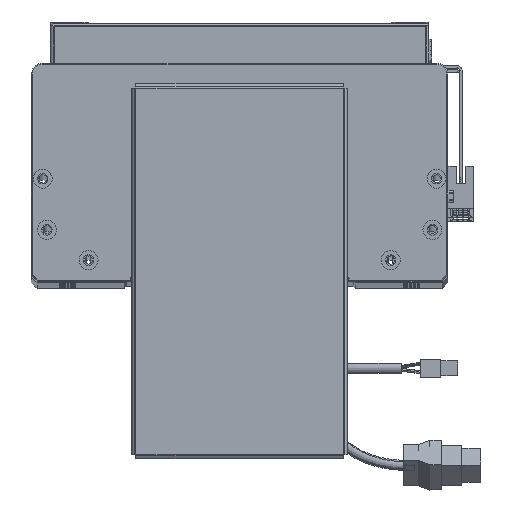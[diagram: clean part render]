
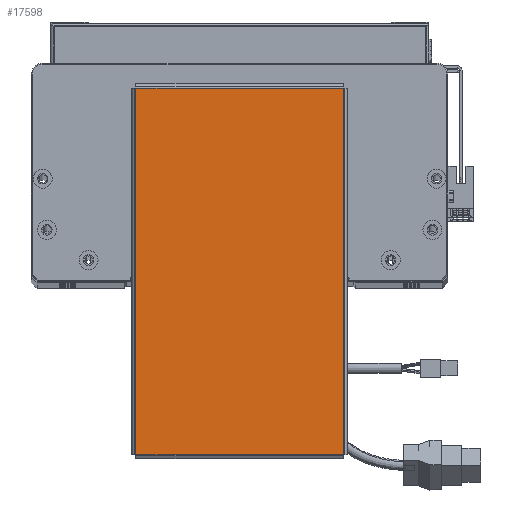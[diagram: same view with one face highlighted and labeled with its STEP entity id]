
A CAD part, top view. The second image highlights one B-rep face of the part: STEP entity #17598.
In plain terms, the highlighted planar face has unit normal (0, 0, 1).
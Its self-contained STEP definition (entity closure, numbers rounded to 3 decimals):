
#1166 = CARTESIAN_POINT ( 'NONE',  ( 96.763, 54.763, 0. ) ) ;
#2144 = CARTESIAN_POINT ( 'NONE',  ( 96.763, -54.793, 0. ) ) ;
#2277 = LINE ( 'NONE', #62775, #57057 ) ;
#4076 = VERTEX_POINT ( 'NONE', #11763 ) ;
#4967 = DIRECTION ( 'NONE',  ( 1., 0., 0. ) ) ;
#7858 = EDGE_CURVE ( 'NONE', #54250, #27908, #59202, .T. ) ;
#9456 = ORIENTED_EDGE ( 'NONE', *, *, #66960, .T. ) ;
#11763 = CARTESIAN_POINT ( 'NONE',  ( -96.763, -54.763, 0. ) ) ;
#12217 = EDGE_CURVE ( 'NONE', #54641, #4076, #2277, .T. ) ;
#13307 = ORIENTED_EDGE ( 'NONE', *, *, #12217, .T. ) ;
#13450 = DIRECTION ( 'NONE',  ( 0., 0., 1. ) ) ;
#17598 = ADVANCED_FACE ( 'NONE', ( #66393 ), #35841, .T. ) ;
#17916 = CARTESIAN_POINT ( 'NONE',  ( -96.763, 54.763, 0. ) ) ;
#18883 = CARTESIAN_POINT ( 'NONE',  ( 96.793, 54.763, 0. ) ) ;
#19862 = ORIENTED_EDGE ( 'NONE', *, *, #7858, .T. ) ;
#20968 = AXIS2_PLACEMENT_3D ( 'NONE', #30168, #13450, #67277 ) ;
#24013 = DIRECTION ( 'NONE',  ( 0., 1., 0. ) ) ;
#25142 = VECTOR ( 'NONE', #4967, 1000. ) ;
#27908 = VERTEX_POINT ( 'NONE', #1166 ) ;
#30168 = CARTESIAN_POINT ( 'NONE',  ( 0., 0., 0. ) ) ;
#34254 = DIRECTION ( 'NONE',  ( -1., 0., 0. ) ) ;
#35841 = PLANE ( 'NONE',  #20968 ) ;
#39452 = VECTOR ( 'NONE', #34254, 1000. ) ;
#41129 = LINE ( 'NONE', #42132, #25142 ) ;
#42033 = ORIENTED_EDGE ( 'NONE', *, *, #44738, .T. ) ;
#42132 = CARTESIAN_POINT ( 'NONE',  ( -96.793, -54.763, 0. ) ) ;
#43058 = CARTESIAN_POINT ( 'NONE',  ( 96.763, -54.763, 0. ) ) ;
#44738 = EDGE_CURVE ( 'NONE', #4076, #54250, #41129, .T. ) ;
#45054 = EDGE_LOOP ( 'NONE', ( #42033, #19862, #9456, #13307 ) ) ;
#46525 = DIRECTION ( 'NONE',  ( 0., -1., 0. ) ) ;
#53762 = LINE ( 'NONE', #18883, #39452 ) ;
#54250 = VERTEX_POINT ( 'NONE', #43058 ) ;
#54641 = VERTEX_POINT ( 'NONE', #17916 ) ;
#55884 = VECTOR ( 'NONE', #24013, 1000. ) ;
#57057 = VECTOR ( 'NONE', #46525, 1000. ) ;
#59202 = LINE ( 'NONE', #2144, #55884 ) ;
#62775 = CARTESIAN_POINT ( 'NONE',  ( -96.763, 54.793, 0. ) ) ;
#66393 = FACE_OUTER_BOUND ( 'NONE', #45054, .T. ) ;
#66960 = EDGE_CURVE ( 'NONE', #27908, #54641, #53762, .T. ) ;
#67277 = DIRECTION ( 'NONE',  ( 1., 0., 0. ) ) ;
